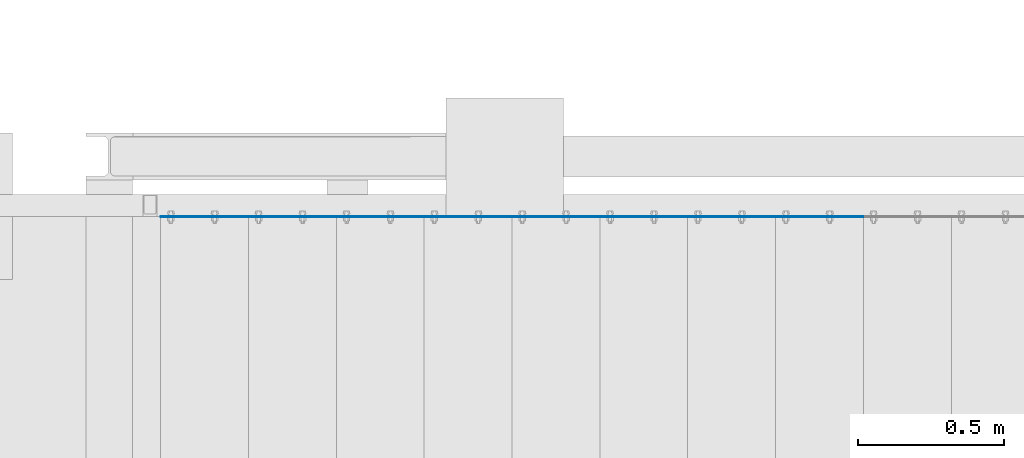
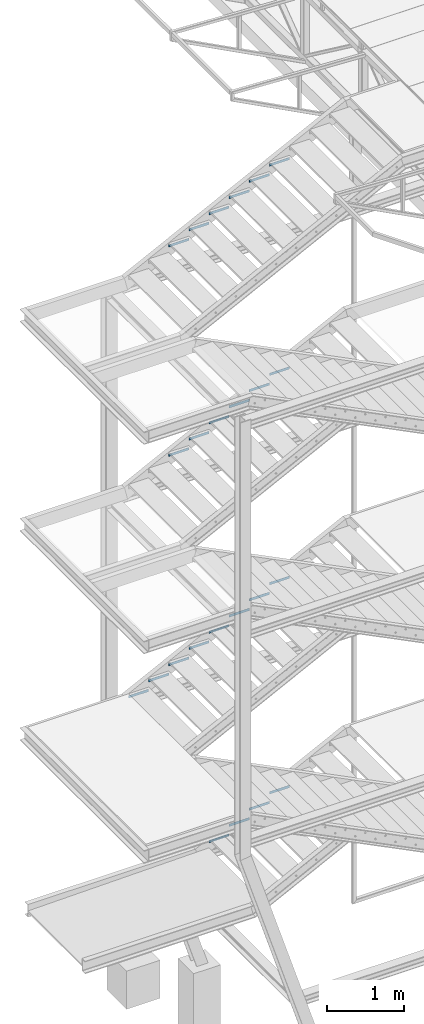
# One storey, part 70 of 132: 24 discrete accessories, 24 elements without a shape of their own.
"""IFC2X3 building model written with IfcOpenShell, lengths in millimetres."""

import ifcopenshell
import ifcopenshell.guid

model = None  # the IFC model being written
_history = None  # IfcOwnerHistory: only IFC2X3 demands one
_inside = {}  # id of a spatial element -> (the spatial element, [elements in it])
_under = {}  # id of a project, library or spatial element -> (it, [spatial elements below it])
_declared = {}  # id of a project -> (the project, [libraries it declares])
_typed = {}  # id of a type object -> (the type object, [elements of that type])
_made_of = {}  # id of a material, layer set ... -> (it, [elements and type objects made of it])


def new_model(schema):
    """Start an empty IFC model of exactly this schema.

    Asked for "IFC4X3", IfcOpenShell would pick the latest addendum, in which some entities
    have other attributes; the version numbers below select the first issue.
    IFC2X3 requires an IfcOwnerHistory on every rooted entity: one is made here for all.
    """
    global model, _history
    if schema == "IFC4X3":
        model = ifcopenshell.file(schema_version=(4, 3, 0, 0))
    else:
        model = ifcopenshell.file(schema=schema)
    _inside.clear()
    _under.clear()
    _declared.clear()
    _typed.clear()
    _made_of.clear()
    _history = None
    if model.schema == "IFC2X3":
        org = make("IfcOrganization", Name="unknown")
        user = make(
            "IfcPersonAndOrganization",
            ThePerson=make("IfcPerson", FamilyName="unknown"),
            TheOrganization=org,
        )
        app = make(
            "IfcApplication",
            ApplicationDeveloper=org,
            Version="unknown",
            ApplicationFullName="unknown",
            ApplicationIdentifier="unknown",
        )
        _history = make(
            "IfcOwnerHistory",
            OwningUser=user,
            OwningApplication=app,
            ChangeAction="ADDED",
            CreationDate=0,
        )
    return model


def make(cls, **values):
    """One entity of the class cls with the attributes given. An attribute that is None is left unset."""
    return model.create_entity(
        cls, **{name: value for name, value in values.items() if value is not None}
    )


def rooted(cls, **values):
    """An entity with a GlobalId (a new one), such as an element, a storey or a relation."""
    return make(cls, GlobalId=ifcopenshell.guid.new(), OwnerHistory=_history, **values)


def si_unit(unit_type, name, prefix=None):
    """IfcSIUnit, for example si_unit("LENGTHUNIT", "METRE", prefix="MILLI")."""
    return make("IfcSIUnit", UnitType=unit_type, Prefix=prefix, Name=name)


def assignment(units):
    """IfcUnitAssignment: the units of a project."""
    return None if units is None else make("IfcUnitAssignment", Units=units)


def point(xyz):
    """IfcCartesianPoint."""
    return None if xyz is None else make("IfcCartesianPoint", Coordinates=xyz)


def direction(xyz):
    """IfcDirection."""
    return None if xyz is None else make("IfcDirection", DirectionRatios=xyz)


def frame(location, z_axis=None, x_axis=None):
    """IfcAxis2Placement3D, a coordinate frame: its origin and axes. An axis left out is left unset."""
    return make(
        "IfcAxis2Placement3D",
        Location=point(location),
        Axis=direction(z_axis),
        RefDirection=direction(x_axis),
    )


def frame_2d(location, x_axis=None):
    """IfcAxis2Placement2D, a coordinate frame in the plane: its origin and x axis."""
    return make(
        "IfcAxis2Placement2D", Location=point(location), RefDirection=direction(x_axis)
    )


def origin_with_axes():
    """The frame at (0, 0, 0) with the z axis (0, 0, 1) and the x axis (1, 0, 0) written out."""
    return frame((0.0, 0.0, 0.0), z_axis=(0.0, 0.0, 1.0), x_axis=(1.0, 0.0, 0.0))


def origin_2d_with_axis():
    """The frame at (0, 0) in the plane with the x axis (1, 0) written out."""
    return frame_2d((0.0, 0.0), x_axis=(1.0, 0.0))


def place(relative_to, where):
    """IfcLocalPlacement: puts the frame where relative to a parent placement (None: the world)."""
    return make(
        "IfcLocalPlacement", PlacementRelTo=relative_to, RelativePlacement=where
    )


def context(
    kind, dimensions, precision=None, world=None, true_north=None, identifier=None
):
    """IfcGeometricRepresentationContext, for example the 3D "Model" context."""
    return make(
        "IfcGeometricRepresentationContext",
        ContextIdentifier=identifier,
        ContextType=kind,
        CoordinateSpaceDimension=dimensions,
        Precision=precision,
        WorldCoordinateSystem=world,
        TrueNorth=true_north,
    )


def subcontext(parent, identifier, kind, view, scale=None):
    """IfcGeometricRepresentationSubContext, for example "Body" below "Model"."""
    return make(
        "IfcGeometricRepresentationSubContext",
        ContextIdentifier=identifier,
        ContextType=kind,
        ParentContext=parent,
        TargetScale=scale,
        TargetView=view,
    )


def project(units=None, contexts=None):
    """IfcProject with its units and contexts."""
    return rooted(
        "IfcProject",
        Name="project",
        RepresentationContexts=contexts,
        UnitsInContext=assignment(units),
    )


def spatial(cls, under=None, at=None, **own):
    """A site, building, storey or space (cls), placed at a placement, below another one or the project."""
    s = rooted(cls, ObjectPlacement=at, **own)
    if under is not None:
        _under.setdefault(under.id(), (under, []))[1].append(s)
    return s


def profile(cls, at=None, kind="AREA", **sizes):
    """A parametric profile (cls). Its sizes go by their IFC names, for example OverallWidth=200.0."""
    return make(cls, ProfileType=kind, Position=at, **sizes)


def rectangle(**sizes):
    """IfcRectangleProfileDef."""
    return profile("IfcRectangleProfileDef", **sizes)


def extrude(swept, where, along, depth):
    """IfcExtrudedAreaSolid: the profile swept, set in the frame where, extruded along a direction by depth."""
    return make(
        "IfcExtrudedAreaSolid",
        SweptArea=swept,
        Position=where,
        ExtrudedDirection=direction(along),
        Depth=depth,
    )


def shape(context_of_items, identifier, shape_type, items):
    """IfcShapeRepresentation: the items that make up one representation, for example the "Body"."""
    return make(
        "IfcShapeRepresentation",
        ContextOfItems=context_of_items,
        RepresentationIdentifier=identifier,
        RepresentationType=shape_type,
        Items=items,
    )


def material(Name=None, Category=None):
    """IfcMaterial."""
    return make("IfcMaterial", Name=Name, Category=Category)


def made_of(thing, what):
    """Note that an element or type object is made of a material, layer set ...; save() writes the relation."""
    if what is not None:
        _made_of.setdefault(what.id(), (what, []))[1].append(thing)
    return thing


def type_object(cls, material=None, **own):
    """A type object (cls), such as IfcWallType, which elements share."""
    return made_of(rooted(cls, **own), material)


def element(
    cls,
    number,
    at=None,
    inside=None,
    cuts=None,
    type_object=None,
    material=None,
    context=None,
    identifier="Body",
    shape_type=None,
    held_by="IfcProductDefinitionShape",
    body=None,
    shapes=None,
    **own,
):
    """One element of the class cls, such as IfcWall. Its Tag is "e" and its number.

    at: its placement. inside: the storey or other place that contains it. cuts: it is an
    opening in that element (IfcRelVoidsElement). A single representation is given by context,
    identifier, shape_type and body (its items); several are given by shapes. held_by: the class
    of the entity that holds the representations. save() writes the other relations.
    """
    e = rooted(cls, Tag="e%d" % number, ObjectPlacement=at, **own)
    if body is not None:
        shapes = [shape(context, identifier, shape_type, body)]
    if shapes is not None:
        e.Representation = make(held_by, Representations=shapes)
    if inside is not None:
        _inside.setdefault(inside.id(), (inside, []))[1].append(e)
    if cuts is not None:
        rooted(
            "IfcRelVoidsElement", RelatingBuildingElement=cuts, RelatedOpeningElement=e
        )
    if type_object is not None:
        _typed.setdefault(type_object.id(), (type_object, []))[1].append(e)
    return made_of(e, material)


def aggregate(whole, parts):
    """IfcRelAggregates: a whole, such as a stair, and the parts it consists of."""
    return rooted("IfcRelAggregates", RelatingObject=whole, RelatedObjects=parts)


def save(model, path):
    """Write the relations noted so far, then the file.

    IfcRelAggregates (storeys below a building ...), IfcRelContainedInSpatialStructure (elements
    in a storey), IfcRelDefinesByType, IfcRelAssociatesMaterial and IfcRelDeclares: one each for
    every whole, place, type object, material and project.
    """
    for whole, parts in _under.values():
        aggregate(whole, parts)
    for where, things in _inside.values():
        rooted(
            "IfcRelContainedInSpatialStructure",
            RelatedElements=things,
            RelatingStructure=where,
        )
    for kind, things in _typed.values():
        rooted("IfcRelDefinesByType", RelatedObjects=things, RelatingType=kind)
    for what, things in _made_of.values():
        rooted("IfcRelAssociatesMaterial", RelatedObjects=things, RelatingMaterial=what)
    for by, libraries in _declared.values():
        rooted("IfcRelDeclares", RelatingContext=by, RelatedDefinitions=libraries)
    model.write(path)


model = new_model("IFC2X3")

# Units and contexts
model_context = context("Model", 3, precision=1e-05, world=origin_with_axes())
body_context = subcontext(model_context, "Body", "Model", "MODEL_VIEW")
ifc_project = project(units=[si_unit("LENGTHUNIT", "METRE", prefix="MILLI"), si_unit("AREAUNIT", "SQUARE_METRE"), si_unit("VOLUMEUNIT", "CUBIC_METRE"), si_unit("MASSUNIT", "GRAM", prefix="KILO"), si_unit("TIMEUNIT", "SECOND"), si_unit("PLANEANGLEUNIT", "RADIAN"), si_unit("SOLIDANGLEUNIT", "STERADIAN"), si_unit("THERMODYNAMICTEMPERATUREUNIT", "DEGREE_CELSIUS"), si_unit("LUMINOUSINTENSITYUNIT", "LUMEN")], contexts=[model_context])

# Site, building, storey
site_placement = place(None, origin_with_axes())
site = spatial("IfcSite", under=ifc_project, at=site_placement, Name="Budowa", CompositionType="ELEMENT")
building_placement = place(site_placement, origin_with_axes())
building = spatial("IfcBuilding", under=site, at=building_placement, Name="Undefined", CompositionType="ELEMENT")
storey_placement = place(building_placement, origin_with_axes())
storey = spatial("IfcBuildingStorey", under=building, at=storey_placement, Name="Undefined", CompositionType="ELEMENT", Elevation=0.0)

# Assembly, discrete accessory
assembly_1_placement = place(storey_placement, origin_with_axes())
assembly_1 = element("IfcElementAssembly", 1, at=assembly_1_placement, inside=storey, Name="Steel Assembly", AssemblyPlace="NOTDEFINED", PredefinedType="RIGID_FRAME")
ifc_material = material(Name="STEEL/S235JR")
discrete_accessory_type = type_object("IfcDiscreteAccessoryType", Name="ANGLE")
discrete_accessory_1_placement = place(assembly_1_placement, frame((-2020.00000008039, 10923.5000000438, 13379.9999999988), z_axis=(0.0, -1.0, 0.0), x_axis=(1.0, 0.0, 0.0)))
discrete_accessory_1 = element("IfcDiscreteAccessory", 2, at=discrete_accessory_1_placement, type_object=discrete_accessory_type, material=ifc_material, Name="ANGLE", ObjectType="3*40", context=body_context, shape_type="SweptSolid", body=[
    extrude(rectangle(XDim=40.0, YDim=3.0, at=origin_2d_with_axis()), frame((300.0, 0.0, 0.0), z_axis=(-1.0, 0.0, 0.0), x_axis=(0.0, -1.0, 0.0)), (0.0, 0.0, 1.0), 300.0),
])
aggregate(assembly_1, [discrete_accessory_1])

assembly_2_placement = place(storey_placement, origin_with_axes())
assembly_2 = element("IfcElementAssembly", 3, at=assembly_2_placement, inside=storey, Name="Steel Assembly", AssemblyPlace="NOTDEFINED", PredefinedType="RIGID_FRAME")
discrete_accessory_2_placement = place(assembly_2_placement, frame((-2320.00000008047, 10923.5000000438, 13229.9999999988), z_axis=(0.0, -1.0, 0.0), x_axis=(1.0, 0.0, 0.0)))
discrete_accessory_2 = element("IfcDiscreteAccessory", 4, at=discrete_accessory_2_placement, type_object=discrete_accessory_type, material=ifc_material, Name="ANGLE", ObjectType="3*40", context=body_context, shape_type="SweptSolid", body=[
    extrude(rectangle(XDim=40.0, YDim=3.0, at=origin_2d_with_axis()), frame((300.0, 0.0, 0.0), z_axis=(-1.0, 0.0, 0.0), x_axis=(0.0, -1.0, 0.0)), (0.0, 0.0, 1.0), 300.0),
])
aggregate(assembly_2, [discrete_accessory_2])

assembly_3_placement = place(storey_placement, origin_with_axes())
assembly_3 = element("IfcElementAssembly", 5, at=assembly_3_placement, inside=storey, Name="Steel Assembly", AssemblyPlace="NOTDEFINED", PredefinedType="RIGID_FRAME")
discrete_accessory_3_placement = place(assembly_3_placement, frame((-2620.00000008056, 10923.5000000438, 13079.9999999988), z_axis=(0.0, -1.0, 0.0), x_axis=(1.0, 0.0, 0.0)))
discrete_accessory_3 = element("IfcDiscreteAccessory", 6, at=discrete_accessory_3_placement, type_object=discrete_accessory_type, material=ifc_material, Name="ANGLE", ObjectType="3*40", context=body_context, shape_type="SweptSolid", body=[
    extrude(rectangle(XDim=40.0, YDim=3.0, at=origin_2d_with_axis()), frame((300.0, 0.0, 0.0), z_axis=(-1.0, 0.0, 0.0), x_axis=(0.0, -1.0, 0.0)), (0.0, 0.0, 1.0), 300.0),
])
aggregate(assembly_3, [discrete_accessory_3])

assembly_4_placement = place(storey_placement, origin_with_axes())
assembly_4 = element("IfcElementAssembly", 7, at=assembly_4_placement, inside=storey, Name="Steel Assembly", AssemblyPlace="NOTDEFINED", PredefinedType="RIGID_FRAME")
discrete_accessory_4_placement = place(assembly_4_placement, frame((-2920.00000008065, 10923.5000000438, 12929.9999999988), z_axis=(0.0, -1.0, 0.0), x_axis=(1.0, 0.0, 0.0)))
discrete_accessory_4 = element("IfcDiscreteAccessory", 8, at=discrete_accessory_4_placement, type_object=discrete_accessory_type, material=ifc_material, Name="ANGLE", ObjectType="3*40", context=body_context, shape_type="SweptSolid", body=[
    extrude(rectangle(XDim=40.0, YDim=3.0, at=origin_2d_with_axis()), frame((300.0, 0.0, 0.0), z_axis=(-1.0, 0.0, 0.0), x_axis=(0.0, -1.0, 0.0)), (0.0, 0.0, 1.0), 300.0),
])
aggregate(assembly_4, [discrete_accessory_4])

assembly_5_placement = place(storey_placement, origin_with_axes())
assembly_5 = element("IfcElementAssembly", 9, at=assembly_5_placement, inside=storey, Name="Steel Assembly", AssemblyPlace="NOTDEFINED", PredefinedType="RIGID_FRAME")
discrete_accessory_5_placement = place(assembly_5_placement, frame((-3220.00000008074, 10923.5000000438, 12779.9999999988), z_axis=(0.0, -1.0, 0.0), x_axis=(1.0, 0.0, 0.0)))
discrete_accessory_5 = element("IfcDiscreteAccessory", 10, at=discrete_accessory_5_placement, type_object=discrete_accessory_type, material=ifc_material, Name="ANGLE", ObjectType="3*40", context=body_context, shape_type="SweptSolid", body=[
    extrude(rectangle(XDim=40.0, YDim=3.0, at=origin_2d_with_axis()), frame((300.0, 0.0, 0.0), z_axis=(-1.0, 0.0, 0.0), x_axis=(0.0, -1.0, 0.0)), (0.0, 0.0, 1.0), 300.0),
])
aggregate(assembly_5, [discrete_accessory_5])

assembly_6_placement = place(storey_placement, origin_with_axes())
assembly_6 = element("IfcElementAssembly", 11, at=assembly_6_placement, inside=storey, Name="Steel Assembly", AssemblyPlace="NOTDEFINED", PredefinedType="RIGID_FRAME")
discrete_accessory_6_placement = place(assembly_6_placement, frame((-3520.00000008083, 10923.5000000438, 12629.9999999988), z_axis=(0.0, -1.0, 0.0), x_axis=(1.0, 0.0, 0.0)))
discrete_accessory_6 = element("IfcDiscreteAccessory", 12, at=discrete_accessory_6_placement, type_object=discrete_accessory_type, material=ifc_material, Name="ANGLE", ObjectType="3*40", context=body_context, shape_type="SweptSolid", body=[
    extrude(rectangle(XDim=40.0, YDim=3.0, at=origin_2d_with_axis()), frame((300.0, 0.0, 0.0), z_axis=(-1.0, 0.0, 0.0), x_axis=(0.0, -1.0, 0.0)), (0.0, 0.0, 1.0), 300.0),
])
aggregate(assembly_6, [discrete_accessory_6])

assembly_7_placement = place(storey_placement, origin_with_axes())
assembly_7 = element("IfcElementAssembly", 13, at=assembly_7_placement, inside=storey, Name="Steel Assembly", AssemblyPlace="NOTDEFINED", PredefinedType="RIGID_FRAME")
discrete_accessory_7_placement = place(assembly_7_placement, frame((-2020.00000008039, 10923.5000000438, 10079.9999999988), z_axis=(0.0, -1.0, 0.0), x_axis=(1.0, 0.0, 0.0)))
discrete_accessory_7 = element("IfcDiscreteAccessory", 14, at=discrete_accessory_7_placement, type_object=discrete_accessory_type, material=ifc_material, Name="ANGLE", ObjectType="3*40", context=body_context, shape_type="SweptSolid", body=[
    extrude(rectangle(XDim=40.0, YDim=3.0, at=origin_2d_with_axis()), frame((300.0, 0.0, 0.0), z_axis=(-1.0, 0.0, 0.0), x_axis=(0.0, -1.0, 0.0)), (0.0, 0.0, 1.0), 300.0),
])
aggregate(assembly_7, [discrete_accessory_7])

assembly_8_placement = place(storey_placement, origin_with_axes())
assembly_8 = element("IfcElementAssembly", 15, at=assembly_8_placement, inside=storey, Name="Steel Assembly", AssemblyPlace="NOTDEFINED", PredefinedType="RIGID_FRAME")
discrete_accessory_8_placement = place(assembly_8_placement, frame((-2320.00000008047, 10923.5000000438, 9929.99999999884), z_axis=(0.0, -1.0, 0.0), x_axis=(1.0, 0.0, 0.0)))
discrete_accessory_8 = element("IfcDiscreteAccessory", 16, at=discrete_accessory_8_placement, type_object=discrete_accessory_type, material=ifc_material, Name="ANGLE", ObjectType="3*40", context=body_context, shape_type="SweptSolid", body=[
    extrude(rectangle(XDim=40.0, YDim=3.0, at=origin_2d_with_axis()), frame((300.0, 0.0, 0.0), z_axis=(-1.0, 0.0, 0.0), x_axis=(0.0, -1.0, 0.0)), (0.0, 0.0, 1.0), 300.0),
])
aggregate(assembly_8, [discrete_accessory_8])

assembly_9_placement = place(storey_placement, origin_with_axes())
assembly_9 = element("IfcElementAssembly", 17, at=assembly_9_placement, inside=storey, Name="Steel Assembly", AssemblyPlace="NOTDEFINED", PredefinedType="RIGID_FRAME")
discrete_accessory_9_placement = place(assembly_9_placement, frame((-2620.00000008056, 10923.5000000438, 9779.99999999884), z_axis=(0.0, -1.0, 0.0), x_axis=(1.0, 0.0, 0.0)))
discrete_accessory_9 = element("IfcDiscreteAccessory", 18, at=discrete_accessory_9_placement, type_object=discrete_accessory_type, material=ifc_material, Name="ANGLE", ObjectType="3*40", context=body_context, shape_type="SweptSolid", body=[
    extrude(rectangle(XDim=40.0, YDim=3.0, at=origin_2d_with_axis()), frame((300.0, 0.0, 0.0), z_axis=(-1.0, 0.0, 0.0), x_axis=(0.0, -1.0, 0.0)), (0.0, 0.0, 1.0), 300.0),
])
aggregate(assembly_9, [discrete_accessory_9])

assembly_10_placement = place(storey_placement, origin_with_axes())
assembly_10 = element("IfcElementAssembly", 19, at=assembly_10_placement, inside=storey, Name="Steel Assembly", AssemblyPlace="NOTDEFINED", PredefinedType="RIGID_FRAME")
discrete_accessory_10_placement = place(assembly_10_placement, frame((-2920.00000008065, 10923.5000000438, 9629.99999999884), z_axis=(0.0, -1.0, 0.0), x_axis=(1.0, 0.0, 0.0)))
discrete_accessory_10 = element("IfcDiscreteAccessory", 20, at=discrete_accessory_10_placement, type_object=discrete_accessory_type, material=ifc_material, Name="ANGLE", ObjectType="3*40", context=body_context, shape_type="SweptSolid", body=[
    extrude(rectangle(XDim=40.0, YDim=3.0, at=origin_2d_with_axis()), frame((300.0, 0.0, 0.0), z_axis=(-1.0, 0.0, 0.0), x_axis=(0.0, -1.0, 0.0)), (0.0, 0.0, 1.0), 300.0),
])
aggregate(assembly_10, [discrete_accessory_10])

assembly_11_placement = place(storey_placement, origin_with_axes())
assembly_11 = element("IfcElementAssembly", 21, at=assembly_11_placement, inside=storey, Name="Steel Assembly", AssemblyPlace="NOTDEFINED", PredefinedType="RIGID_FRAME")
discrete_accessory_11_placement = place(assembly_11_placement, frame((-3220.00000008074, 10923.5000000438, 9479.99999999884), z_axis=(0.0, -1.0, 0.0), x_axis=(1.0, 0.0, 0.0)))
discrete_accessory_11 = element("IfcDiscreteAccessory", 22, at=discrete_accessory_11_placement, type_object=discrete_accessory_type, material=ifc_material, Name="ANGLE", ObjectType="3*40", context=body_context, shape_type="SweptSolid", body=[
    extrude(rectangle(XDim=40.0, YDim=3.0, at=origin_2d_with_axis()), frame((300.0, 0.0, 0.0), z_axis=(-1.0, 0.0, 0.0), x_axis=(0.0, -1.0, 0.0)), (0.0, 0.0, 1.0), 300.0),
])
aggregate(assembly_11, [discrete_accessory_11])

assembly_12_placement = place(storey_placement, origin_with_axes())
assembly_12 = element("IfcElementAssembly", 23, at=assembly_12_placement, inside=storey, Name="Steel Assembly", AssemblyPlace="NOTDEFINED", PredefinedType="RIGID_FRAME")
discrete_accessory_12_placement = place(assembly_12_placement, frame((-3520.00000008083, 10923.5000000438, 9329.99999999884), z_axis=(0.0, -1.0, 0.0), x_axis=(1.0, 0.0, 0.0)))
discrete_accessory_12 = element("IfcDiscreteAccessory", 24, at=discrete_accessory_12_placement, type_object=discrete_accessory_type, material=ifc_material, Name="ANGLE", ObjectType="3*40", context=body_context, shape_type="SweptSolid", body=[
    extrude(rectangle(XDim=40.0, YDim=3.0, at=origin_2d_with_axis()), frame((300.0, 0.0, 0.0), z_axis=(-1.0, 0.0, 0.0), x_axis=(0.0, -1.0, 0.0)), (0.0, 0.0, 1.0), 300.0),
])
aggregate(assembly_12, [discrete_accessory_12])

assembly_13_placement = place(storey_placement, origin_with_axes())
assembly_13 = element("IfcElementAssembly", 25, at=assembly_13_placement, inside=storey, Name="Steel Assembly", AssemblyPlace="NOTDEFINED", PredefinedType="RIGID_FRAME")
discrete_accessory_13_placement = place(assembly_13_placement, frame((-2020.00000008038, 10923.5000000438, 6779.99999999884), z_axis=(0.0, -1.0, 0.0), x_axis=(1.0, 0.0, 0.0)))
discrete_accessory_13 = element("IfcDiscreteAccessory", 26, at=discrete_accessory_13_placement, type_object=discrete_accessory_type, material=ifc_material, Name="ANGLE", ObjectType="3*40", context=body_context, shape_type="SweptSolid", body=[
    extrude(rectangle(XDim=40.0, YDim=3.0, at=origin_2d_with_axis()), frame((300.0, 0.0, 0.0), z_axis=(-1.0, 0.0, 0.0), x_axis=(0.0, -1.0, 0.0)), (0.0, 0.0, 1.0), 300.0),
])
aggregate(assembly_13, [discrete_accessory_13])

assembly_14_placement = place(storey_placement, origin_with_axes())
assembly_14 = element("IfcElementAssembly", 27, at=assembly_14_placement, inside=storey, Name="Steel Assembly", AssemblyPlace="NOTDEFINED", PredefinedType="RIGID_FRAME")
discrete_accessory_14_placement = place(assembly_14_placement, frame((-2320.00000008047, 10923.5000000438, 6629.99999999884), z_axis=(0.0, -1.0, 0.0), x_axis=(1.0, 0.0, 0.0)))
discrete_accessory_14 = element("IfcDiscreteAccessory", 28, at=discrete_accessory_14_placement, type_object=discrete_accessory_type, material=ifc_material, Name="ANGLE", ObjectType="3*40", context=body_context, shape_type="SweptSolid", body=[
    extrude(rectangle(XDim=40.0, YDim=3.0, at=origin_2d_with_axis()), frame((300.0, 0.0, 0.0), z_axis=(-1.0, 0.0, 0.0), x_axis=(0.0, -1.0, 0.0)), (0.0, 0.0, 1.0), 300.0),
])
aggregate(assembly_14, [discrete_accessory_14])

assembly_15_placement = place(storey_placement, origin_with_axes())
assembly_15 = element("IfcElementAssembly", 29, at=assembly_15_placement, inside=storey, Name="Steel Assembly", AssemblyPlace="NOTDEFINED", PredefinedType="RIGID_FRAME")
discrete_accessory_15_placement = place(assembly_15_placement, frame((-2620.00000008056, 10923.5000000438, 6479.99999999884), z_axis=(0.0, -1.0, 0.0), x_axis=(1.0, 0.0, 0.0)))
discrete_accessory_15 = element("IfcDiscreteAccessory", 30, at=discrete_accessory_15_placement, type_object=discrete_accessory_type, material=ifc_material, Name="ANGLE", ObjectType="3*40", context=body_context, shape_type="SweptSolid", body=[
    extrude(rectangle(XDim=40.0, YDim=3.0, at=origin_2d_with_axis()), frame((300.0, 0.0, 0.0), z_axis=(-1.0, 0.0, 0.0), x_axis=(0.0, -1.0, 0.0)), (0.0, 0.0, 1.0), 300.0),
])
aggregate(assembly_15, [discrete_accessory_15])

assembly_16_placement = place(storey_placement, origin_with_axes())
assembly_16 = element("IfcElementAssembly", 31, at=assembly_16_placement, inside=storey, Name="Steel Assembly", AssemblyPlace="NOTDEFINED", PredefinedType="RIGID_FRAME")
discrete_accessory_16_placement = place(assembly_16_placement, frame((-2920.00000008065, 10923.5000000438, 6329.99999999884), z_axis=(0.0, -1.0, 0.0), x_axis=(1.0, 0.0, 0.0)))
discrete_accessory_16 = element("IfcDiscreteAccessory", 32, at=discrete_accessory_16_placement, type_object=discrete_accessory_type, material=ifc_material, Name="ANGLE", ObjectType="3*40", context=body_context, shape_type="SweptSolid", body=[
    extrude(rectangle(XDim=40.0, YDim=3.0, at=origin_2d_with_axis()), frame((300.0, 0.0, 0.0), z_axis=(-1.0, 0.0, 0.0), x_axis=(0.0, -1.0, 0.0)), (0.0, 0.0, 1.0), 300.0),
])
aggregate(assembly_16, [discrete_accessory_16])

assembly_17_placement = place(storey_placement, origin_with_axes())
assembly_17 = element("IfcElementAssembly", 33, at=assembly_17_placement, inside=storey, Name="Steel Assembly", AssemblyPlace="NOTDEFINED", PredefinedType="RIGID_FRAME")
discrete_accessory_17_placement = place(assembly_17_placement, frame((-3220.00000008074, 10923.5000000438, 6179.99999999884), z_axis=(0.0, -1.0, 0.0), x_axis=(1.0, 0.0, 0.0)))
discrete_accessory_17 = element("IfcDiscreteAccessory", 34, at=discrete_accessory_17_placement, type_object=discrete_accessory_type, material=ifc_material, Name="ANGLE", ObjectType="3*40", context=body_context, shape_type="SweptSolid", body=[
    extrude(rectangle(XDim=40.0, YDim=3.0, at=origin_2d_with_axis()), frame((300.0, 0.0, 0.0), z_axis=(-1.0, 0.0, 0.0), x_axis=(0.0, -1.0, 0.0)), (0.0, 0.0, 1.0), 300.0),
])
aggregate(assembly_17, [discrete_accessory_17])

assembly_18_placement = place(storey_placement, origin_with_axes())
assembly_18 = element("IfcElementAssembly", 35, at=assembly_18_placement, inside=storey, Name="Steel Assembly", AssemblyPlace="NOTDEFINED", PredefinedType="RIGID_FRAME")
discrete_accessory_18_placement = place(assembly_18_placement, frame((-3520.00000008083, 10923.5000000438, 6029.99999999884), z_axis=(0.0, -1.0, 0.0), x_axis=(1.0, 0.0, 0.0)))
discrete_accessory_18 = element("IfcDiscreteAccessory", 36, at=discrete_accessory_18_placement, type_object=discrete_accessory_type, material=ifc_material, Name="ANGLE", ObjectType="3*40", context=body_context, shape_type="SweptSolid", body=[
    extrude(rectangle(XDim=40.0, YDim=3.0, at=origin_2d_with_axis()), frame((300.0, 0.0, 0.0), z_axis=(-1.0, 0.0, 0.0), x_axis=(0.0, -1.0, 0.0)), (0.0, 0.0, 1.0), 300.0),
])
aggregate(assembly_18, [discrete_accessory_18])

assembly_19_placement = place(storey_placement, origin_with_axes())
assembly_19 = element("IfcElementAssembly", 37, at=assembly_19_placement, inside=storey, Name="Steel Assembly", AssemblyPlace="NOTDEFINED", PredefinedType="RIGID_FRAME")
discrete_accessory_19_placement = place(assembly_19_placement, frame((-3820.00000008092, 10923.5000000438, 5879.99999999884), z_axis=(0.0, -1.0, 0.0), x_axis=(1.0, 0.0, 0.0)))
discrete_accessory_19 = element("IfcDiscreteAccessory", 38, at=discrete_accessory_19_placement, type_object=discrete_accessory_type, material=ifc_material, Name="ANGLE", ObjectType="3*40", context=body_context, shape_type="SweptSolid", body=[
    extrude(rectangle(XDim=40.0, YDim=3.0, at=origin_2d_with_axis()), frame((300.0, 0.0, 0.0), z_axis=(-1.0, 0.0, 0.0), x_axis=(0.0, -1.0, 0.0)), (0.0, 0.0, 1.0), 300.0),
])
aggregate(assembly_19, [discrete_accessory_19])

assembly_20_placement = place(storey_placement, origin_with_axes())
assembly_20 = element("IfcElementAssembly", 39, at=assembly_20_placement, inside=storey, Name="Steel Assembly", AssemblyPlace="NOTDEFINED", PredefinedType="RIGID_FRAME")
discrete_accessory_20_placement = place(assembly_20_placement, frame((-4120.000000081, 10923.5000000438, 5729.99999999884), z_axis=(0.0, -1.0, 0.0), x_axis=(1.0, 0.0, 0.0)))
discrete_accessory_20 = element("IfcDiscreteAccessory", 40, at=discrete_accessory_20_placement, type_object=discrete_accessory_type, material=ifc_material, Name="ANGLE", ObjectType="3*40", context=body_context, shape_type="SweptSolid", body=[
    extrude(rectangle(XDim=40.0, YDim=3.0, at=origin_2d_with_axis()), frame((300.0, 0.0, 0.0), z_axis=(-1.0, 0.0, 0.0), x_axis=(0.0, -1.0, 0.0)), (0.0, 0.0, 1.0), 300.0),
])
aggregate(assembly_20, [discrete_accessory_20])

assembly_21_placement = place(storey_placement, origin_with_axes())
assembly_21 = element("IfcElementAssembly", 41, at=assembly_21_placement, inside=storey, Name="Steel Assembly", AssemblyPlace="NOTDEFINED", PredefinedType="RIGID_FRAME")
discrete_accessory_21_placement = place(assembly_21_placement, frame((-2020.00000008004, 10923.5000000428, 3479.99999999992), z_axis=(0.0, -1.0, 0.0), x_axis=(1.0, 0.0, 0.0)))
discrete_accessory_21 = element("IfcDiscreteAccessory", 42, at=discrete_accessory_21_placement, type_object=discrete_accessory_type, material=ifc_material, Name="ANGLE", ObjectType="3*40", context=body_context, shape_type="SweptSolid", body=[
    extrude(rectangle(XDim=40.0, YDim=3.0, at=origin_2d_with_axis()), frame((300.0, 0.0, 0.0), z_axis=(-1.0, 0.0, 0.0), x_axis=(0.0, -1.0, 0.0)), (0.0, 0.0, 1.0), 300.0),
])
aggregate(assembly_21, [discrete_accessory_21])

assembly_22_placement = place(storey_placement, origin_with_axes())
assembly_22 = element("IfcElementAssembly", 43, at=assembly_22_placement, inside=storey, Name="Steel Assembly", AssemblyPlace="NOTDEFINED", PredefinedType="RIGID_FRAME")
discrete_accessory_22_placement = place(assembly_22_placement, frame((-2320.00000008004, 10923.5000000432, 3329.99999999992), z_axis=(0.0, -1.0, 0.0), x_axis=(1.0, 0.0, 0.0)))
discrete_accessory_22 = element("IfcDiscreteAccessory", 44, at=discrete_accessory_22_placement, type_object=discrete_accessory_type, material=ifc_material, Name="ANGLE", ObjectType="3*40", context=body_context, shape_type="SweptSolid", body=[
    extrude(rectangle(XDim=40.0, YDim=3.0, at=origin_2d_with_axis()), frame((300.0, 0.0, 0.0), z_axis=(-1.0, 0.0, 0.0), x_axis=(0.0, -1.0, 0.0)), (0.0, 0.0, 1.0), 300.0),
])
aggregate(assembly_22, [discrete_accessory_22])

assembly_23_placement = place(storey_placement, origin_with_axes())
assembly_23 = element("IfcElementAssembly", 45, at=assembly_23_placement, inside=storey, Name="Steel Assembly", AssemblyPlace="NOTDEFINED", PredefinedType="RIGID_FRAME")
discrete_accessory_23_placement = place(assembly_23_placement, frame((-2620.00000008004, 10923.5000000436, 3179.99999999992), z_axis=(0.0, -1.0, 0.0), x_axis=(1.0, 0.0, 0.0)))
discrete_accessory_23 = element("IfcDiscreteAccessory", 46, at=discrete_accessory_23_placement, type_object=discrete_accessory_type, material=ifc_material, Name="ANGLE", ObjectType="3*40", context=body_context, shape_type="SweptSolid", body=[
    extrude(rectangle(XDim=40.0, YDim=3.0, at=origin_2d_with_axis()), frame((300.0, 0.0, 0.0), z_axis=(-1.0, 0.0, 0.0), x_axis=(0.0, -1.0, 0.0)), (0.0, 0.0, 1.0), 300.0),
])
aggregate(assembly_23, [discrete_accessory_23])

assembly_24_placement = place(storey_placement, origin_with_axes())
assembly_24 = element("IfcElementAssembly", 47, at=assembly_24_placement, inside=storey, Name="Steel Assembly", AssemblyPlace="NOTDEFINED", PredefinedType="RIGID_FRAME")
discrete_accessory_24_placement = place(assembly_24_placement, frame((-2920.00000008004, 10923.500000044, 3029.99999999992), z_axis=(0.0, -1.0, 0.0), x_axis=(1.0, 0.0, 0.0)))
discrete_accessory_24 = element("IfcDiscreteAccessory", 48, at=discrete_accessory_24_placement, type_object=discrete_accessory_type, material=ifc_material, Name="ANGLE", ObjectType="3*40", context=body_context, shape_type="SweptSolid", body=[
    extrude(rectangle(XDim=40.0, YDim=3.0, at=origin_2d_with_axis()), frame((300.0, 0.0, 0.0), z_axis=(-1.0, 0.0, 0.0), x_axis=(0.0, -1.0, 0.0)), (0.0, 0.0, 1.0), 300.0),
])
aggregate(assembly_24, [discrete_accessory_24])

save(model, "model.ifc")
